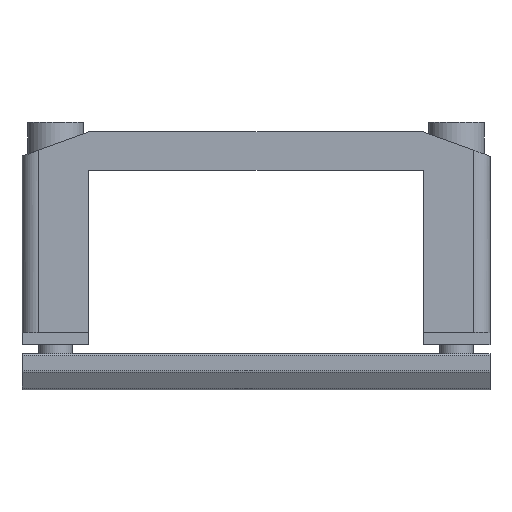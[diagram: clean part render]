
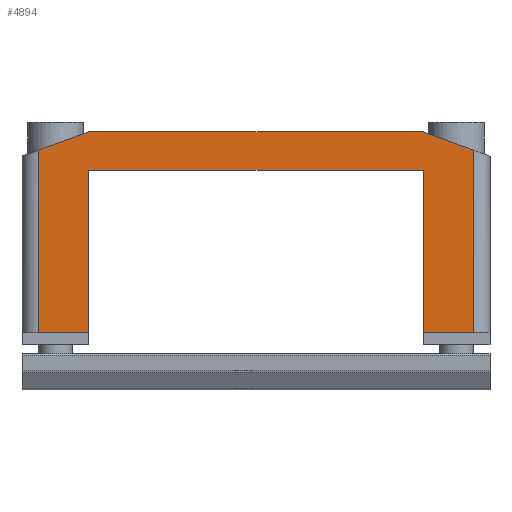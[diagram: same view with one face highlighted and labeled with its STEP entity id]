
A CAD part, top view. The second image highlights one B-rep face of the part: STEP entity #4894.
In plain terms, the highlighted planar face has unit normal (0, 0, 1).
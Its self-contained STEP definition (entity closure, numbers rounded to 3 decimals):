
#199 = DIRECTION ( 'NONE',  ( 1., 0., 0. ) ) ;
#262 = CARTESIAN_POINT ( 'NONE',  ( -71.733, 29.517, 15.597 ) ) ;
#697 = LINE ( 'NONE', #7696, #5945 ) ;
#822 = CARTESIAN_POINT ( 'NONE',  ( -64.233, 2.247, 15.597 ) ) ;
#900 = VERTEX_POINT ( 'NONE', #7713 ) ;
#948 = CARTESIAN_POINT ( 'NONE',  ( -14.233, 32.247, 15.597 ) ) ;
#1038 = VERTEX_POINT ( 'NONE', #9610 ) ;
#1047 = EDGE_CURVE ( 'NONE', #4257, #9543, #9015, .T. ) ;
#1127 = CARTESIAN_POINT ( 'NONE',  ( 0., 0., 15.597 ) ) ;
#1146 = DIRECTION ( 'NONE',  ( 1., 0., 0. ) ) ;
#1165 = CARTESIAN_POINT ( 'NONE',  ( -6.733, 0., 15.597 ) ) ;
#1263 = EDGE_CURVE ( 'NONE', #1038, #7869, #8181, .T. ) ;
#1637 = CARTESIAN_POINT ( 'NONE',  ( -64.233, 26.547, 15.597 ) ) ;
#1844 = DIRECTION ( 'NONE',  ( 1., 0., 0. ) ) ;
#2046 = CARTESIAN_POINT ( 'NONE',  ( -6.733, 29.517, 15.597 ) ) ;
#2048 = EDGE_CURVE ( 'NONE', #8743, #4257, #8051, .T. ) ;
#2064 = LINE ( 'NONE', #1165, #9515 ) ;
#2141 = VECTOR ( 'NONE', #4954, 1000. ) ;
#2221 = AXIS2_PLACEMENT_3D ( 'NONE', #1127, #3401, #8607 ) ;
#2237 = ORIENTED_EDGE ( 'NONE', *, *, #4853, .T. ) ;
#2300 = DIRECTION ( 'NONE',  ( -1., 0., 0. ) ) ;
#2483 = VECTOR ( 'NONE', #1146, 1000. ) ;
#2597 = VECTOR ( 'NONE', #2300, 1000. ) ;
#2684 = LINE ( 'NONE', #9248, #2802 ) ;
#2802 = VECTOR ( 'NONE', #5475, 1000. ) ;
#2805 = ORIENTED_EDGE ( 'NONE', *, *, #1263, .T. ) ;
#2889 = VERTEX_POINT ( 'NONE', #2046 ) ;
#2980 = DIRECTION ( 'NONE',  ( 0., -1., 0. ) ) ;
#3009 = EDGE_CURVE ( 'NONE', #9150, #1038, #9342, .T. ) ;
#3016 = CARTESIAN_POINT ( 'NONE',  ( -14.233, 26.547, 15.597 ) ) ;
#3401 = DIRECTION ( 'NONE',  ( 0., 0., 1. ) ) ;
#3496 = VECTOR ( 'NONE', #2980, 1000. ) ;
#3776 = CARTESIAN_POINT ( 'NONE',  ( -6.733, 2.247, 15.597 ) ) ;
#3805 = CARTESIAN_POINT ( 'NONE',  ( -64.233, 0.447, 15.597 ) ) ;
#4138 = EDGE_CURVE ( 'NONE', #7869, #8743, #697, .T. ) ;
#4184 = CARTESIAN_POINT ( 'NONE',  ( -71.733, 2.247, 15.597 ) ) ;
#4211 = VECTOR ( 'NONE', #199, 1000. ) ;
#4257 = VERTEX_POINT ( 'NONE', #822 ) ;
#4651 = FACE_OUTER_BOUND ( 'NONE', #4769, .T. ) ;
#4769 = EDGE_LOOP ( 'NONE', ( #8701, #5378, #9656, #9141, #2805, #5858, #6619, #5992, #8501, #2237 ) ) ;
#4784 = CARTESIAN_POINT ( 'NONE',  ( -74.233, 2.247, 15.597 ) ) ;
#4786 = LINE ( 'NONE', #4784, #7676 ) ;
#4853 = EDGE_CURVE ( 'NONE', #7674, #900, #5472, .T. ) ;
#4867 = EDGE_CURVE ( 'NONE', #2889, #9150, #2684, .T. ) ;
#4894 = ADVANCED_FACE ( 'NONE', ( #4651 ), #7163, .T. ) ;
#4898 = CARTESIAN_POINT ( 'NONE',  ( -74.233, 2.247, 15.597 ) ) ;
#4954 = DIRECTION ( 'NONE',  ( -0.94, -0.342, 0. ) ) ;
#4956 = VECTOR ( 'NONE', #9003, 1000. ) ;
#5370 = VERTEX_POINT ( 'NONE', #3776 ) ;
#5378 = ORIENTED_EDGE ( 'NONE', *, *, #7374, .T. ) ;
#5394 = CARTESIAN_POINT ( 'NONE',  ( -64.233, 26.547, 15.597 ) ) ;
#5472 = LINE ( 'NONE', #7402, #3496 ) ;
#5475 = DIRECTION ( 'NONE',  ( -0.94, 0.342, 0. ) ) ;
#5718 = CARTESIAN_POINT ( 'NONE',  ( -64.233, 32.247, 15.597 ) ) ;
#5858 = ORIENTED_EDGE ( 'NONE', *, *, #4138, .T. ) ;
#5945 = VECTOR ( 'NONE', #7803, 1000. ) ;
#5992 = ORIENTED_EDGE ( 'NONE', *, *, #1047, .T. ) ;
#6619 = ORIENTED_EDGE ( 'NONE', *, *, #2048, .T. ) ;
#7163 = PLANE ( 'NONE',  #2221 ) ;
#7374 = EDGE_CURVE ( 'NONE', #5370, #2889, #2064, .T. ) ;
#7402 = CARTESIAN_POINT ( 'NONE',  ( -14.233, 26.547, 15.597 ) ) ;
#7674 = VERTEX_POINT ( 'NONE', #3016 ) ;
#7676 = VECTOR ( 'NONE', #1844, 1000. ) ;
#7696 = CARTESIAN_POINT ( 'NONE',  ( -71.733, 0., 15.597 ) ) ;
#7713 = CARTESIAN_POINT ( 'NONE',  ( -14.233, 2.247, 15.597 ) ) ;
#7803 = DIRECTION ( 'NONE',  ( 0., -1., 0. ) ) ;
#7834 = DIRECTION ( 'NONE',  ( 0., 1., 0. ) ) ;
#7869 = VERTEX_POINT ( 'NONE', #262 ) ;
#8051 = LINE ( 'NONE', #4898, #2483 ) ;
#8181 = LINE ( 'NONE', #5718, #2141 ) ;
#8194 = EDGE_CURVE ( 'NONE', #900, #5370, #4786, .T. ) ;
#8387 = LINE ( 'NONE', #1637, #4211 ) ;
#8501 = ORIENTED_EDGE ( 'NONE', *, *, #8660, .T. ) ;
#8607 = DIRECTION ( 'NONE',  ( 1., 0., 0. ) ) ;
#8660 = EDGE_CURVE ( 'NONE', #9543, #7674, #8387, .T. ) ;
#8701 = ORIENTED_EDGE ( 'NONE', *, *, #8194, .T. ) ;
#8743 = VERTEX_POINT ( 'NONE', #4184 ) ;
#8802 = CARTESIAN_POINT ( 'NONE',  ( -14.233, 32.247, 15.597 ) ) ;
#9003 = DIRECTION ( 'NONE',  ( 0., 1., 0. ) ) ;
#9015 = LINE ( 'NONE', #3805, #4956 ) ;
#9141 = ORIENTED_EDGE ( 'NONE', *, *, #3009, .T. ) ;
#9150 = VERTEX_POINT ( 'NONE', #948 ) ;
#9248 = CARTESIAN_POINT ( 'NONE',  ( -4.233, 28.607, 15.597 ) ) ;
#9342 = LINE ( 'NONE', #8802, #2597 ) ;
#9515 = VECTOR ( 'NONE', #7834, 1000. ) ;
#9543 = VERTEX_POINT ( 'NONE', #5394 ) ;
#9610 = CARTESIAN_POINT ( 'NONE',  ( -64.233, 32.247, 15.597 ) ) ;
#9656 = ORIENTED_EDGE ( 'NONE', *, *, #4867, .T. ) ;
